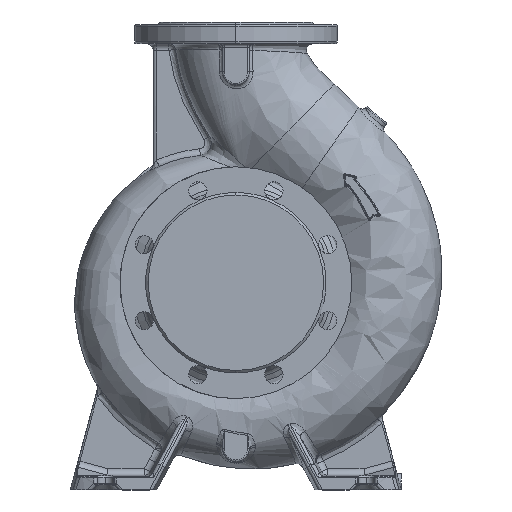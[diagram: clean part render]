
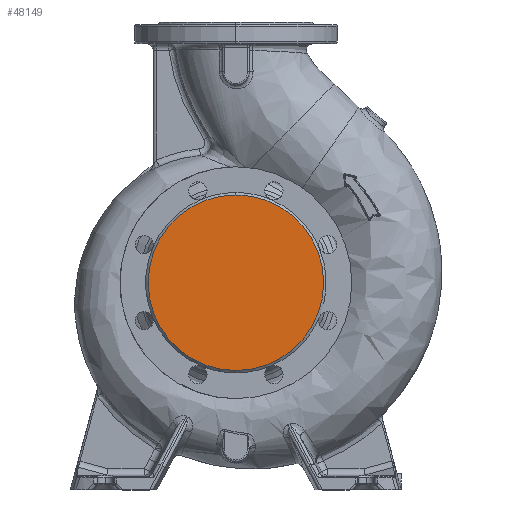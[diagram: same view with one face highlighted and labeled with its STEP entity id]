
A CAD part, top view. The second image highlights one B-rep face of the part: STEP entity #48149.
In plain terms, the highlighted planar face has unit normal (0, 0, 1).
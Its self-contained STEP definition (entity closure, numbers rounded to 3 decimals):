
#1837 = AXIS2_PLACEMENT_3D ( 'NONE', #25027, #50550, #37805 ) ;
#2278 = EDGE_CURVE ( 'NONE', #13497, #43757, #16653, .T. ) ;
#2541 = ORIENTED_EDGE ( 'NONE', *, *, #47171, .F. ) ;
#7724 = CARTESIAN_POINT ( 'NONE',  ( 0., 106., 140. ) ) ;
#9827 = CARTESIAN_POINT ( 'NONE',  ( 0., 0., 140. ) ) ;
#13497 = VERTEX_POINT ( 'NONE', #37419 ) ;
#16653 = CIRCLE ( 'NONE', #68822, 106. ) ;
#17139 = DIRECTION ( 'NONE',  ( 0., 1., 0. ) ) ;
#20409 = FACE_OUTER_BOUND ( 'NONE', #28892, .T. ) ;
#21581 = DIRECTION ( 'NONE',  ( 0., 0., -1. ) ) ;
#25027 = CARTESIAN_POINT ( 'NONE',  ( 0., 0., 140. ) ) ;
#28892 = EDGE_LOOP ( 'NONE', ( #2541, #71846 ) ) ;
#29417 = DIRECTION ( 'NONE',  ( 0., 0., -1. ) ) ;
#33415 = AXIS2_PLACEMENT_3D ( 'NONE', #9827, #21581, #47898 ) ;
#37419 = CARTESIAN_POINT ( 'NONE',  ( 0., -106., 140. ) ) ;
#37805 = DIRECTION ( 'NONE',  ( 0., 1., 0. ) ) ;
#43757 = VERTEX_POINT ( 'NONE', #7724 ) ;
#47171 = EDGE_CURVE ( 'NONE', #43757, #13497, #82322, .T. ) ;
#47898 = DIRECTION ( 'NONE',  ( 0., 1., 0. ) ) ;
#48149 = ADVANCED_FACE ( 'NONE', ( #20409 ), #82663, .F. ) ;
#50550 = DIRECTION ( 'NONE',  ( 0., 0., -1. ) ) ;
#67441 = CARTESIAN_POINT ( 'NONE',  ( 0., 0., 140. ) ) ;
#68822 = AXIS2_PLACEMENT_3D ( 'NONE', #67441, #29417, #17139 ) ;
#71846 = ORIENTED_EDGE ( 'NONE', *, *, #2278, .F. ) ;
#82322 = CIRCLE ( 'NONE', #33415, 106. ) ;
#82663 = PLANE ( 'NONE',  #1837 ) ;
